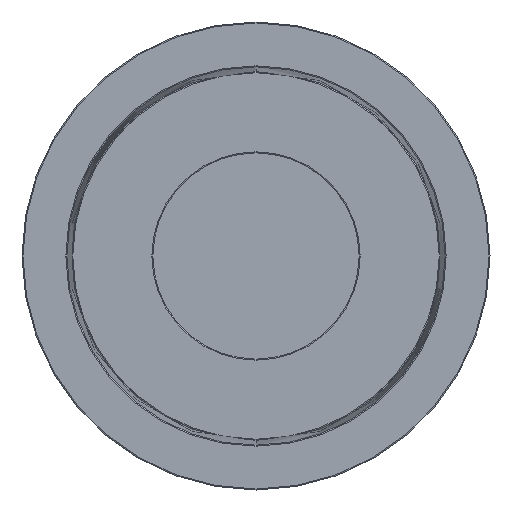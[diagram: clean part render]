
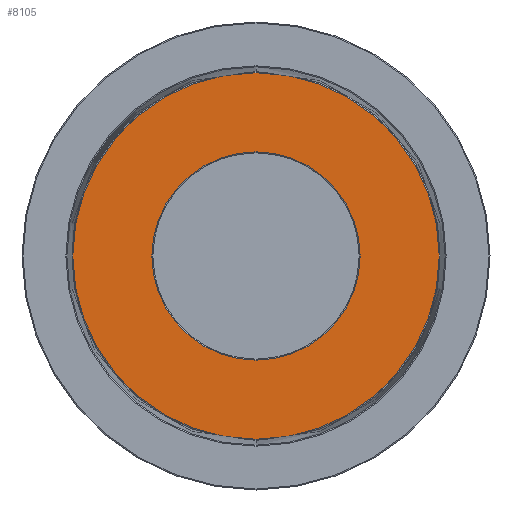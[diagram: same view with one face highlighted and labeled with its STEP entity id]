
A CAD part, front view. The second image highlights one B-rep face of the part: STEP entity #8105.
In plain terms, the highlighted planar face has unit normal (0, -1, 0).
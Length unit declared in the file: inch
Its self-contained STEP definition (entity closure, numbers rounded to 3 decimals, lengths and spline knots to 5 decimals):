
#198 = EDGE_CURVE ( 'NONE', #14593, #13421, #11628, .T. ) ;
#738 = FACE_OUTER_BOUND ( 'NONE', #9942, .T. ) ;
#1013 = DIRECTION ( 'NONE',  ( 0., 0., 1. ) ) ;
#2164 = DIRECTION ( 'NONE',  ( 0., 0., 1. ) ) ;
#2412 = VERTEX_POINT ( 'NONE', #17324 ) ;
#2462 = FACE_BOUND ( 'NONE', #9911, .T. ) ;
#2733 = CARTESIAN_POINT ( 'NONE',  ( 0., 0., 0. ) ) ;
#3756 = ORIENTED_EDGE ( 'NONE', *, *, #198, .T. ) ;
#3782 = DIRECTION ( 'NONE',  ( 0., 0., 1. ) ) ;
#4370 = AXIS2_PLACEMENT_3D ( 'NONE', #15090, #8103, #16300 ) ;
#5878 = CARTESIAN_POINT ( 'NONE',  ( 0., 0., 0. ) ) ;
#6577 = CARTESIAN_POINT ( 'NONE',  ( 0., 0., 0.82315 ) ) ;
#7057 = CARTESIAN_POINT ( 'NONE',  ( 0., 0., 0. ) ) ;
#7577 = VERTEX_POINT ( 'NONE', #16819 ) ;
#7675 = DIRECTION ( 'NONE',  ( 0., 1., 0. ) ) ;
#8103 = DIRECTION ( 'NONE',  ( 0., 1., 0. ) ) ;
#8105 = ADVANCED_FACE ( 'NONE', ( #738, #2462 ), #19514, .F. ) ;
#8195 = CARTESIAN_POINT ( 'NONE',  ( 0., 0., -0.82315 ) ) ;
#8885 = CARTESIAN_POINT ( 'NONE',  ( 0., 0., 0. ) ) ;
#9647 = DIRECTION ( 'NONE',  ( 0., -1., 0. ) ) ;
#9911 = EDGE_LOOP ( 'NONE', ( #19492, #3756 ) ) ;
#9942 = EDGE_LOOP ( 'NONE', ( #10217, #12177 ) ) ;
#10217 = ORIENTED_EDGE ( 'NONE', *, *, #21681, .T. ) ;
#10594 = DIRECTION ( 'NONE',  ( 0., 1., 0. ) ) ;
#10740 = EDGE_CURVE ( 'NONE', #7577, #2412, #21068, .T. ) ;
#11628 = CIRCLE ( 'NONE', #4370, 0.82315 ) ;
#12177 = ORIENTED_EDGE ( 'NONE', *, *, #10740, .T. ) ;
#12406 = AXIS2_PLACEMENT_3D ( 'NONE', #8885, #10594, #3782 ) ;
#13201 = EDGE_CURVE ( 'NONE', #13421, #14593, #14576, .T. ) ;
#13421 = VERTEX_POINT ( 'NONE', #6577 ) ;
#13626 = AXIS2_PLACEMENT_3D ( 'NONE', #2733, #9647, #1013 ) ;
#14576 = CIRCLE ( 'NONE', #12406, 0.82315 ) ;
#14593 = VERTEX_POINT ( 'NONE', #8195 ) ;
#15090 = CARTESIAN_POINT ( 'NONE',  ( 0., 0., 0. ) ) ;
#15221 = AXIS2_PLACEMENT_3D ( 'NONE', #7057, #20833, #2164 ) ;
#16202 = DIRECTION ( 'NONE',  ( 0., 0., 1. ) ) ;
#16300 = DIRECTION ( 'NONE',  ( 0., 0., 1. ) ) ;
#16819 = CARTESIAN_POINT ( 'NONE',  ( 0., 0., -1.44882 ) ) ;
#17324 = CARTESIAN_POINT ( 'NONE',  ( 0., 0., 1.44882 ) ) ;
#19492 = ORIENTED_EDGE ( 'NONE', *, *, #13201, .T. ) ;
#19514 = PLANE ( 'NONE',  #20993 ) ;
#20523 = CIRCLE ( 'NONE', #13626, 1.44882 ) ;
#20833 = DIRECTION ( 'NONE',  ( 0., -1., 0. ) ) ;
#20993 = AXIS2_PLACEMENT_3D ( 'NONE', #5878, #7675, #16202 ) ;
#21068 = CIRCLE ( 'NONE', #15221, 1.44882 ) ;
#21681 = EDGE_CURVE ( 'NONE', #2412, #7577, #20523, .T. ) ;
